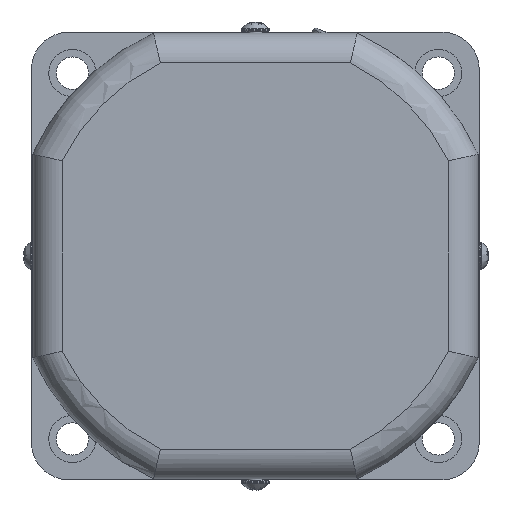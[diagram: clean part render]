
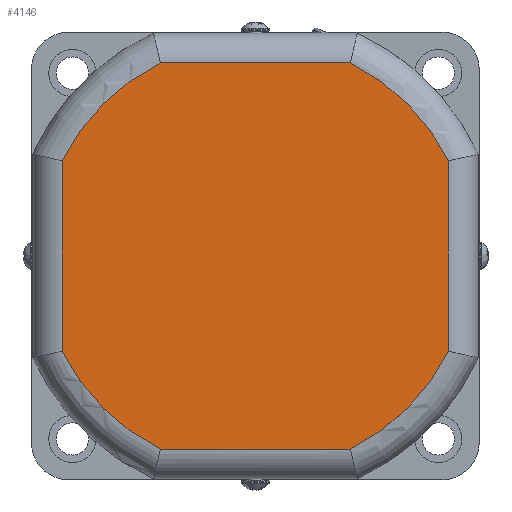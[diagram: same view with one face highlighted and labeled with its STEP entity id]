
A CAD part, left-side view. The second image highlights one B-rep face of the part: STEP entity #4146.
In plain terms, the highlighted planar face has unit normal (-1, 0, 0).
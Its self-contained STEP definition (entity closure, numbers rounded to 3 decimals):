
#4071=CARTESIAN_POINT('',(-23.,0.,0.));
#4072=DIRECTION('',(1.0,0.0,0.0));
#4073=DIRECTION('',(0.0,-1.0,0.0));
#4074=AXIS2_PLACEMENT_3D('',#4071,#4072,#4073);
#4075=PLANE('',#4074);
#4076=CARTESIAN_POINT('',(-23.,-19.108,-38.8));
#4077=VERTEX_POINT('',#4076);
#4078=CARTESIAN_POINT('',(-23.,19.108,-38.8));
#4079=VERTEX_POINT('',#4078);
#4080=CARTESIAN_POINT('',(-23.,-19.108,-38.8));
#4081=DIRECTION('',(0.0,1.0,0.0));
#4082=VECTOR('',#4081,38.216);
#4083=LINE('',#4080,#4082);
#4084=EDGE_CURVE('',#4077,#4079,#4083,.T.);
#4085=ORIENTED_EDGE('',*,*,#4084,.F.);
#4086=CARTESIAN_POINT('',(-23.,-38.8,-19.108));
#4087=VERTEX_POINT('',#4086);
#4088=CARTESIAN_POINT('',(-23.,0.,0.));
#4089=DIRECTION('',(1.0,0.,0.));
#4090=DIRECTION('',(0.,-0.707,-0.707));
#4091=AXIS2_PLACEMENT_3D('',#4088,#4089,#4090);
#4092=CIRCLE('',#4091,43.25);
#4093=EDGE_CURVE('',#4087,#4077,#4092,.T.);
#4094=ORIENTED_EDGE('',*,*,#4093,.F.);
#4095=CARTESIAN_POINT('',(-23.,-38.8,19.108));
#4096=VERTEX_POINT('',#4095);
#4097=CARTESIAN_POINT('',(-23.,-38.8,19.108));
#4098=DIRECTION('',(0.0,0.0,-1.0));
#4099=VECTOR('',#4098,38.216);
#4100=LINE('',#4097,#4099);
#4101=EDGE_CURVE('',#4096,#4087,#4100,.T.);
#4102=ORIENTED_EDGE('',*,*,#4101,.F.);
#4103=CARTESIAN_POINT('',(-23.,-19.108,38.8));
#4104=VERTEX_POINT('',#4103);
#4105=CARTESIAN_POINT('',(-23.,0.,0.));
#4106=DIRECTION('',(1.0,0.,0.));
#4107=DIRECTION('',(0.,-0.707,0.707));
#4108=AXIS2_PLACEMENT_3D('',#4105,#4106,#4107);
#4109=CIRCLE('',#4108,43.25);
#4110=EDGE_CURVE('',#4104,#4096,#4109,.T.);
#4111=ORIENTED_EDGE('',*,*,#4110,.F.);
#4112=CARTESIAN_POINT('',(-23.,19.108,38.8));
#4113=VERTEX_POINT('',#4112);
#4114=CARTESIAN_POINT('',(-23.,19.108,38.8));
#4115=DIRECTION('',(0.0,-1.0,0.0));
#4116=VECTOR('',#4115,38.216);
#4117=LINE('',#4114,#4116);
#4118=EDGE_CURVE('',#4113,#4104,#4117,.T.);
#4119=ORIENTED_EDGE('',*,*,#4118,.F.);
#4120=CARTESIAN_POINT('',(-23.,38.8,19.108));
#4121=VERTEX_POINT('',#4120);
#4122=CARTESIAN_POINT('',(-23.,0.,0.));
#4123=DIRECTION('',(1.0,0.,0.));
#4124=DIRECTION('',(0.,0.707,0.707));
#4125=AXIS2_PLACEMENT_3D('',#4122,#4123,#4124);
#4126=CIRCLE('',#4125,43.25);
#4127=EDGE_CURVE('',#4121,#4113,#4126,.T.);
#4128=ORIENTED_EDGE('',*,*,#4127,.F.);
#4129=CARTESIAN_POINT('',(-23.,38.8,-19.108));
#4130=VERTEX_POINT('',#4129);
#4131=CARTESIAN_POINT('',(-23.,38.8,-19.108));
#4132=DIRECTION('',(0.0,0.0,1.0));
#4133=VECTOR('',#4132,38.216);
#4134=LINE('',#4131,#4133);
#4135=EDGE_CURVE('',#4130,#4121,#4134,.T.);
#4136=ORIENTED_EDGE('',*,*,#4135,.F.);
#4137=CARTESIAN_POINT('',(-23.,0.,0.));
#4138=DIRECTION('',(1.0,0.,0.));
#4139=DIRECTION('',(0.,0.707,-0.707));
#4140=AXIS2_PLACEMENT_3D('',#4137,#4138,#4139);
#4141=CIRCLE('',#4140,43.25);
#4142=EDGE_CURVE('',#4079,#4130,#4141,.T.);
#4143=ORIENTED_EDGE('',*,*,#4142,.F.);
#4144=EDGE_LOOP('',(#4085,#4094,#4102,#4111,#4119,#4128,#4136,#4143));
#4145=FACE_OUTER_BOUND('',#4144,.T.);
#4146=ADVANCED_FACE('',(#4145),#4075,.F.);
